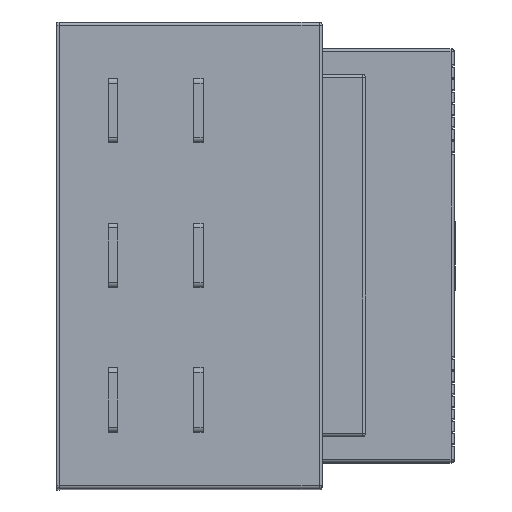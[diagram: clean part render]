
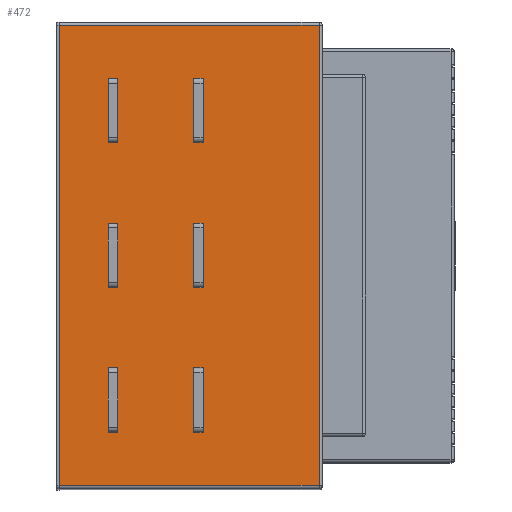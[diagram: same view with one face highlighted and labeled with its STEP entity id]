
A CAD part, top view. The second image highlights one B-rep face of the part: STEP entity #472.
In plain terms, the highlighted planar face has unit normal (0, 0, 1).
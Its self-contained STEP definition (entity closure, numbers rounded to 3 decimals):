
#472=ADVANCED_FACE('',(#1829,#1831,#1833,#1835,#1837,#1839,#1841),#1843,.T.);
#1829=FACE_BOUND('',#1830,.T.);
#1830=EDGE_LOOP('',(#5384,#5385,#5386,#5387));
#1831=FACE_BOUND('',#1832,.T.);
#1832=EDGE_LOOP('',(#5388,#5389,#5390,#5391));
#1833=FACE_BOUND('',#1834,.T.);
#1834=EDGE_LOOP('',(#5392,#5393,#5394,#5395));
#1835=FACE_BOUND('',#1836,.T.);
#1836=EDGE_LOOP('',(#5396,#5397,#5398,#5399));
#1837=FACE_BOUND('',#1838,.T.);
#1838=EDGE_LOOP('',(#5400,#5401,#5402,#5403));
#1839=FACE_BOUND('',#1840,.T.);
#1840=EDGE_LOOP('',(#5404,#5405,#5406,#5407));
#1841=FACE_BOUND('',#1842,.T.);
#1842=EDGE_LOOP('',(#5408,#5409,#5410,#5411));
#1843=PLANE('',#1844);
#1844=AXIS2_PLACEMENT_3D('',#1845,#1846,#1847);
#1845=CARTESIAN_POINT('',(1.5,145.,219.));
#1846=DIRECTION('',(0.,0.,1.));
#1847=DIRECTION('',(0.,-1.,0.));
#5384=ORIENTED_EDGE('',*,*,#7746,.F.);
#5385=ORIENTED_EDGE('',*,*,#7771,.F.);
#5386=ORIENTED_EDGE('',*,*,#7752,.T.);
#5387=ORIENTED_EDGE('',*,*,#7750,.T.);
#5388=ORIENTED_EDGE('',*,*,#7772,.F.);
#5389=ORIENTED_EDGE('',*,*,#7773,.F.);
#5390=ORIENTED_EDGE('',*,*,#7774,.F.);
#5391=ORIENTED_EDGE('',*,*,#7775,.F.);
#5392=ORIENTED_EDGE('',*,*,#7776,.F.);
#5393=ORIENTED_EDGE('',*,*,#7777,.F.);
#5394=ORIENTED_EDGE('',*,*,#7778,.F.);
#5395=ORIENTED_EDGE('',*,*,#7779,.F.);
#5396=ORIENTED_EDGE('',*,*,#7780,.F.);
#5397=ORIENTED_EDGE('',*,*,#7781,.F.);
#5398=ORIENTED_EDGE('',*,*,#7782,.F.);
#5399=ORIENTED_EDGE('',*,*,#7783,.F.);
#5400=ORIENTED_EDGE('',*,*,#7784,.F.);
#5401=ORIENTED_EDGE('',*,*,#7785,.F.);
#5402=ORIENTED_EDGE('',*,*,#7786,.F.);
#5403=ORIENTED_EDGE('',*,*,#7787,.F.);
#5404=ORIENTED_EDGE('',*,*,#7788,.F.);
#5405=ORIENTED_EDGE('',*,*,#7789,.F.);
#5406=ORIENTED_EDGE('',*,*,#7790,.F.);
#5407=ORIENTED_EDGE('',*,*,#7791,.F.);
#5408=ORIENTED_EDGE('',*,*,#7792,.F.);
#5409=ORIENTED_EDGE('',*,*,#7793,.F.);
#5410=ORIENTED_EDGE('',*,*,#7794,.F.);
#5411=ORIENTED_EDGE('',*,*,#7795,.F.);
#7746=EDGE_CURVE('',#9072,#9073,#9074,.T.);
#7750=EDGE_CURVE('',#9078,#9073,#9079,.T.);
#7752=EDGE_CURVE('',#9081,#9078,#9082,.T.);
#7771=EDGE_CURVE('',#9081,#9072,#9113,.T.);
#7772=EDGE_CURVE('',#9114,#9115,#9116,.T.);
#7773=EDGE_CURVE('',#9117,#9114,#9118,.T.);
#7774=EDGE_CURVE('',#9119,#9117,#9120,.T.);
#7775=EDGE_CURVE('',#9115,#9119,#9121,.T.);
#7776=EDGE_CURVE('',#9122,#9123,#9124,.T.);
#7777=EDGE_CURVE('',#9125,#9122,#9126,.T.);
#7778=EDGE_CURVE('',#9127,#9125,#9128,.T.);
#7779=EDGE_CURVE('',#9123,#9127,#9129,.T.);
#7780=EDGE_CURVE('',#9130,#9131,#9132,.T.);
#7781=EDGE_CURVE('',#9133,#9130,#9134,.T.);
#7782=EDGE_CURVE('',#9135,#9133,#9136,.T.);
#7783=EDGE_CURVE('',#9131,#9135,#9137,.T.);
#7784=EDGE_CURVE('',#9138,#9139,#9140,.T.);
#7785=EDGE_CURVE('',#9141,#9138,#9142,.T.);
#7786=EDGE_CURVE('',#9143,#9141,#9144,.T.);
#7787=EDGE_CURVE('',#9139,#9143,#9145,.T.);
#7788=EDGE_CURVE('',#9146,#9147,#9148,.T.);
#7789=EDGE_CURVE('',#9149,#9146,#9150,.T.);
#7790=EDGE_CURVE('',#9151,#9149,#9152,.T.);
#7791=EDGE_CURVE('',#9147,#9151,#9153,.T.);
#7792=EDGE_CURVE('',#9154,#9155,#9156,.T.);
#7793=EDGE_CURVE('',#9157,#9154,#9158,.T.);
#7794=EDGE_CURVE('',#9159,#9157,#9160,.T.);
#7795=EDGE_CURVE('',#9155,#9159,#9161,.T.);
#9072=VERTEX_POINT('',#11408);
#9073=VERTEX_POINT('',#11409);
#9074=LINE('',#11410,#11411);
#9078=VERTEX_POINT('',#11425);
#9079=LINE('',#11426,#11427);
#9081=VERTEX_POINT('',#11433);
#9082=LINE('',#11434,#11435);
#9113=LINE('',#11517,#11518);
#9114=VERTEX_POINT('',#11520);
#9115=VERTEX_POINT('',#11521);
#9116=LINE('',#11522,#11523);
#9117=VERTEX_POINT('',#11525);
#9118=LINE('',#11526,#11527);
#9119=VERTEX_POINT('',#11529);
#9120=LINE('',#11530,#11531);
#9121=LINE('',#11533,#11534);
#9122=VERTEX_POINT('',#11536);
#9123=VERTEX_POINT('',#11537);
#9124=LINE('',#11538,#11539);
#9125=VERTEX_POINT('',#11541);
#9126=LINE('',#11542,#11543);
#9127=VERTEX_POINT('',#11545);
#9128=LINE('',#11546,#11547);
#9129=LINE('',#11549,#11550);
#9130=VERTEX_POINT('',#11552);
#9131=VERTEX_POINT('',#11553);
#9132=LINE('',#11554,#11555);
#9133=VERTEX_POINT('',#11557);
#9134=LINE('',#11558,#11559);
#9135=VERTEX_POINT('',#11561);
#9136=LINE('',#11562,#11563);
#9137=LINE('',#11565,#11566);
#9138=VERTEX_POINT('',#11568);
#9139=VERTEX_POINT('',#11569);
#9140=LINE('',#11570,#11571);
#9141=VERTEX_POINT('',#11573);
#9142=LINE('',#11574,#11575);
#9143=VERTEX_POINT('',#11577);
#9144=LINE('',#11578,#11579);
#9145=LINE('',#11581,#11582);
#9146=VERTEX_POINT('',#11584);
#9147=VERTEX_POINT('',#11585);
#9148=LINE('',#11586,#11587);
#9149=VERTEX_POINT('',#11589);
#9150=LINE('',#11590,#11591);
#9151=VERTEX_POINT('',#11593);
#9152=LINE('',#11594,#11595);
#9153=LINE('',#11597,#11598);
#9154=VERTEX_POINT('',#11600);
#9155=VERTEX_POINT('',#11601);
#9156=LINE('',#11602,#11603);
#9157=VERTEX_POINT('',#11605);
#9158=LINE('',#11606,#11607);
#9159=VERTEX_POINT('',#11609);
#9160=LINE('',#11610,#11611);
#9161=LINE('',#11613,#11614);
#11408=CARTESIAN_POINT('',(163.,143.,219.));
#11409=CARTESIAN_POINT('',(163.,-143.,219.));
#11410=CARTESIAN_POINT('',(163.,143.,219.));
#11411=VECTOR('',#11412,1.);
#11412=DIRECTION('',(0.,-1.,0.));
#11425=CARTESIAN_POINT('',(1.5,-143.,219.));
#11426=CARTESIAN_POINT('',(1.5,-143.,219.));
#11427=VECTOR('',#11428,1.);
#11428=DIRECTION('',(1.,0.,0.));
#11433=CARTESIAN_POINT('',(1.5,143.,219.));
#11434=CARTESIAN_POINT('',(1.5,143.,219.));
#11435=VECTOR('',#11436,1.);
#11436=DIRECTION('',(0.,-1.,0.));
#11517=CARTESIAN_POINT('',(1.5,143.,219.));
#11518=VECTOR('',#11519,1.);
#11519=DIRECTION('',(1.,0.,0.));
#11520=CARTESIAN_POINT('',(32.,-70.,219.));
#11521=CARTESIAN_POINT('',(32.,-110.,219.));
#11522=CARTESIAN_POINT('',(32.,-70.,219.));
#11523=VECTOR('',#11524,1.);
#11524=DIRECTION('',(0.,-1.,0.));
#11525=CARTESIAN_POINT('',(38.,-70.,219.));
#11526=CARTESIAN_POINT('',(38.,-70.,219.));
#11527=VECTOR('',#11528,1.);
#11528=DIRECTION('',(-1.,0.,0.));
#11529=CARTESIAN_POINT('',(38.,-110.,219.));
#11530=CARTESIAN_POINT('',(38.,-110.,219.));
#11531=VECTOR('',#11532,1.);
#11532=DIRECTION('',(0.,1.,0.));
#11533=CARTESIAN_POINT('',(32.,-110.,219.));
#11534=VECTOR('',#11535,1.);
#11535=DIRECTION('',(1.,0.,0.));
#11536=CARTESIAN_POINT('',(85.,-70.,219.));
#11537=CARTESIAN_POINT('',(85.,-110.,219.));
#11538=CARTESIAN_POINT('',(85.,-70.,219.));
#11539=VECTOR('',#11540,1.);
#11540=DIRECTION('',(0.,-1.,0.));
#11541=CARTESIAN_POINT('',(91.,-70.,219.));
#11542=CARTESIAN_POINT('',(91.,-70.,219.));
#11543=VECTOR('',#11544,1.);
#11544=DIRECTION('',(-1.,0.,0.));
#11545=CARTESIAN_POINT('',(91.,-110.,219.));
#11546=CARTESIAN_POINT('',(91.,-110.,219.));
#11547=VECTOR('',#11548,1.);
#11548=DIRECTION('',(0.,1.,0.));
#11549=CARTESIAN_POINT('',(85.,-110.,219.));
#11550=VECTOR('',#11551,1.);
#11551=DIRECTION('',(1.,0.,0.));
#11552=CARTESIAN_POINT('',(32.,20.,219.));
#11553=CARTESIAN_POINT('',(32.,-20.,219.));
#11554=CARTESIAN_POINT('',(32.,20.,219.));
#11555=VECTOR('',#11556,1.);
#11556=DIRECTION('',(0.,-1.,0.));
#11557=CARTESIAN_POINT('',(38.,20.,219.));
#11558=CARTESIAN_POINT('',(38.,20.,219.));
#11559=VECTOR('',#11560,1.);
#11560=DIRECTION('',(-1.,0.,0.));
#11561=CARTESIAN_POINT('',(38.,-20.,219.));
#11562=CARTESIAN_POINT('',(38.,-20.,219.));
#11563=VECTOR('',#11564,1.);
#11564=DIRECTION('',(0.,1.,0.));
#11565=CARTESIAN_POINT('',(32.,-20.,219.));
#11566=VECTOR('',#11567,1.);
#11567=DIRECTION('',(1.,0.,0.));
#11568=CARTESIAN_POINT('',(32.,110.,219.));
#11569=CARTESIAN_POINT('',(32.,70.,219.));
#11570=CARTESIAN_POINT('',(32.,110.,219.));
#11571=VECTOR('',#11572,1.);
#11572=DIRECTION('',(0.,-1.,0.));
#11573=CARTESIAN_POINT('',(38.,110.,219.));
#11574=CARTESIAN_POINT('',(38.,110.,219.));
#11575=VECTOR('',#11576,1.);
#11576=DIRECTION('',(-1.,0.,0.));
#11577=CARTESIAN_POINT('',(38.,70.,219.));
#11578=CARTESIAN_POINT('',(38.,70.,219.));
#11579=VECTOR('',#11580,1.);
#11580=DIRECTION('',(0.,1.,0.));
#11581=CARTESIAN_POINT('',(32.,70.,219.));
#11582=VECTOR('',#11583,1.);
#11583=DIRECTION('',(1.,0.,0.));
#11584=CARTESIAN_POINT('',(85.,70.,219.));
#11585=CARTESIAN_POINT('',(91.,70.,219.));
#11586=CARTESIAN_POINT('',(85.,70.,219.));
#11587=VECTOR('',#11588,1.);
#11588=DIRECTION('',(1.,0.,0.));
#11589=CARTESIAN_POINT('',(85.,110.,219.));
#11590=CARTESIAN_POINT('',(85.,110.,219.));
#11591=VECTOR('',#11592,1.);
#11592=DIRECTION('',(0.,-1.,0.));
#11593=CARTESIAN_POINT('',(91.,110.,219.));
#11594=CARTESIAN_POINT('',(91.,110.,219.));
#11595=VECTOR('',#11596,1.);
#11596=DIRECTION('',(-1.,0.,0.));
#11597=CARTESIAN_POINT('',(91.,70.,219.));
#11598=VECTOR('',#11599,1.);
#11599=DIRECTION('',(0.,1.,0.));
#11600=CARTESIAN_POINT('',(85.,-20.,219.));
#11601=CARTESIAN_POINT('',(91.,-20.,219.));
#11602=CARTESIAN_POINT('',(85.,-20.,219.));
#11603=VECTOR('',#11604,1.);
#11604=DIRECTION('',(1.,0.,0.));
#11605=CARTESIAN_POINT('',(85.,20.,219.));
#11606=CARTESIAN_POINT('',(85.,20.,219.));
#11607=VECTOR('',#11608,1.);
#11608=DIRECTION('',(0.,-1.,0.));
#11609=CARTESIAN_POINT('',(91.,20.,219.));
#11610=CARTESIAN_POINT('',(91.,20.,219.));
#11611=VECTOR('',#11612,1.);
#11612=DIRECTION('',(-1.,0.,0.));
#11613=CARTESIAN_POINT('',(91.,-20.,219.));
#11614=VECTOR('',#11615,1.);
#11615=DIRECTION('',(0.,1.,0.));
